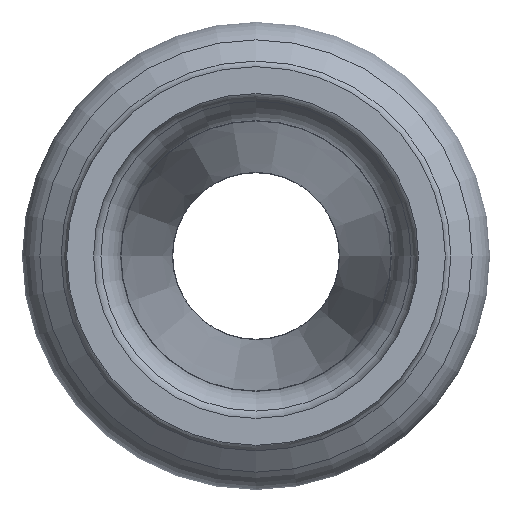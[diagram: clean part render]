
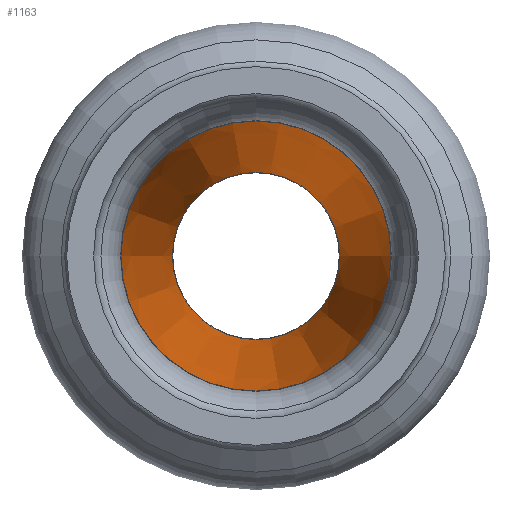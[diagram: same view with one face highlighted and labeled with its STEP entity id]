
A CAD part, left-side view. The second image highlights one B-rep face of the part: STEP entity #1163.
In plain terms, the highlighted conical face has half-angle 7.312 degrees and reference radius 11.24 mm.
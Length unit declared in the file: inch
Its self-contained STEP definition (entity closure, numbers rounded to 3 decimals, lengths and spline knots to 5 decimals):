
#76=LINE('',#2154,#98);
#98=VECTOR('',#1741,0.44253);
#112=CONICAL_SURFACE('',#1349,0.44253,0.128);
#149=FACE_OUTER_BOUND('',#198,.T.);
#198=EDGE_LOOP('',(#951,#952,#953,#954,#955,#956,#957,#958));
#327=CIRCLE('',#1345,0.33833);
#328=CIRCLE('',#1346,0.33833);
#329=CIRCLE('',#1347,0.33833);
#331=CIRCLE('',#1350,0.54673);
#332=CIRCLE('',#1351,0.54673);
#333=CIRCLE('',#1352,0.54673);
#470=VERTEX_POINT('',#2145);
#471=VERTEX_POINT('',#2146);
#472=VERTEX_POINT('',#2148);
#473=VERTEX_POINT('',#2153);
#474=VERTEX_POINT('',#2155);
#475=VERTEX_POINT('',#2157);
#638=EDGE_CURVE('',#470,#471,#327,.T.);
#639=EDGE_CURVE('',#472,#470,#328,.T.);
#640=EDGE_CURVE('',#471,#472,#329,.T.);
#642=EDGE_CURVE('',#472,#473,#76,.T.);
#643=EDGE_CURVE('',#474,#473,#331,.T.);
#644=EDGE_CURVE('',#475,#474,#332,.T.);
#645=EDGE_CURVE('',#473,#475,#333,.T.);
#951=ORIENTED_EDGE('',*,*,#638,.T.);
#952=ORIENTED_EDGE('',*,*,#640,.T.);
#953=ORIENTED_EDGE('',*,*,#642,.T.);
#954=ORIENTED_EDGE('',*,*,#643,.F.);
#955=ORIENTED_EDGE('',*,*,#644,.F.);
#956=ORIENTED_EDGE('',*,*,#645,.F.);
#957=ORIENTED_EDGE('',*,*,#642,.F.);
#958=ORIENTED_EDGE('',*,*,#639,.T.);
#1163=ADVANCED_FACE('',(#149),#112,.F.);
#1345=AXIS2_PLACEMENT_3D('',#2147,#1731,#1732);
#1346=AXIS2_PLACEMENT_3D('',#2149,#1733,#1734);
#1347=AXIS2_PLACEMENT_3D('',#2150,#1735,#1736);
#1349=AXIS2_PLACEMENT_3D('',#2152,#1739,#1740);
#1350=AXIS2_PLACEMENT_3D('',#2156,#1742,#1743);
#1351=AXIS2_PLACEMENT_3D('',#2158,#1744,#1745);
#1352=AXIS2_PLACEMENT_3D('',#2159,#1746,#1747);
#1731=DIRECTION('center_axis',(1.,0.,0.));
#1732=DIRECTION('ref_axis',(0.,1.,0.));
#1733=DIRECTION('center_axis',(1.,0.,0.));
#1734=DIRECTION('ref_axis',(0.,1.,0.));
#1735=DIRECTION('center_axis',(1.,0.,0.));
#1736=DIRECTION('ref_axis',(0.,1.,0.));
#1739=DIRECTION('center_axis',(-1.,0.,0.));
#1740=DIRECTION('ref_axis',(0.,1.,0.));
#1741=DIRECTION('',(-0.992,-0.127,0.));
#1742=DIRECTION('center_axis',(1.,0.,0.));
#1743=DIRECTION('ref_axis',(0.,1.,0.));
#1744=DIRECTION('center_axis',(1.,0.,0.));
#1745=DIRECTION('ref_axis',(0.,1.,0.));
#1746=DIRECTION('center_axis',(1.,0.,0.));
#1747=DIRECTION('ref_axis',(0.,1.,0.));
#2145=CARTESIAN_POINT('',(0.84054,0.33833,0.));
#2146=CARTESIAN_POINT('',(0.84054,0.,0.33833));
#2147=CARTESIAN_POINT('Origin',(0.84054,0.,
0.));
#2148=CARTESIAN_POINT('',(0.84054,-0.33833,0.));
#2149=CARTESIAN_POINT('Origin',(0.84054,0.,
0.));
#2150=CARTESIAN_POINT('Origin',(0.84054,0.,
0.));
#2152=CARTESIAN_POINT('Origin',(0.02847,0.,
0.));
#2153=CARTESIAN_POINT('',(-0.78361,-0.54673,0.));
#2154=CARTESIAN_POINT('',(0.02847,-0.44253,0.));
#2155=CARTESIAN_POINT('',(-0.78361,0.,0.54673));
#2156=CARTESIAN_POINT('Origin',(-0.78361,0.,
0.));
#2157=CARTESIAN_POINT('',(-0.78361,0.54673,0.));
#2158=CARTESIAN_POINT('Origin',(-0.78361,0.,
0.));
#2159=CARTESIAN_POINT('Origin',(-0.78361,0.,
0.));
